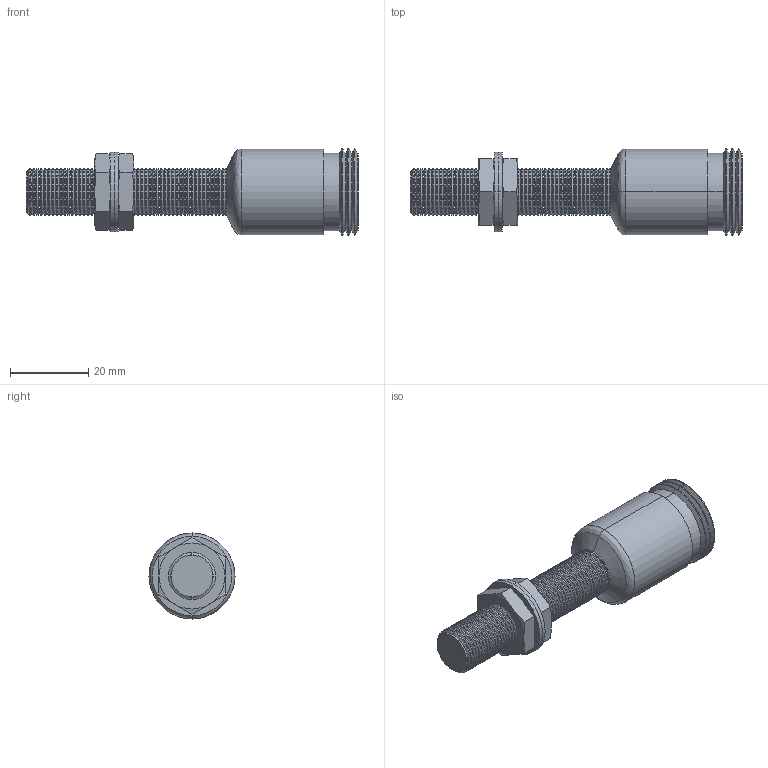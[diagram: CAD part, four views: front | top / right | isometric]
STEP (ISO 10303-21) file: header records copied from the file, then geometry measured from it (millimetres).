
FILE_DESCRIPTION (( 'STEP AP203' ), '1' );
FILE_NAME ('90-29417-083.STEP', '2016-05-31T03:56:44', ( 'Sam' ), ( 'Spade' ), 'SwSTEP 2.0', 'SolidWorks 2002296', '' );
FILE_SCHEMA (( 'CONFIG_CONTROL_DESIGN' ));
Length unit declared in the file: inch
Products named in the file (11): 90-29417-083; Imported55; Imported54; Imported58; Imported59; Imported60; Imported56; Imported57; Imported62; Imported61; Imported53
Assembly tree (10 placements, depth 2):
  90-29417-083
    Imported54
    Imported57
    Imported61
    Imported59
    Imported62
    Imported58
    Imported60
    Imported56
    Imported53
    Imported55
Bounding box: 84.99 x 22.04 x 22.04 mm (x, y, z)
Volume: 17781.8 mm3; surface area: 20196.3 mm2
Topology: 60 solids, 60 shells, 693 faces, 1390 edges, 822 vertices
Faces by surface type: cone 282, plane 215, cylinder 188, bspline 8
Entity records: 19072 total; most frequent: DIRECTION 3383, CARTESIAN_POINT 3206, ORIENTED_EDGE 2768, EDGE_CURVE 1384, AXIS2_PLACEMENT_3D 1351, VERTEX_POINT 822, EDGE_LOOP 712, FACE_OUTER_BOUND 693
